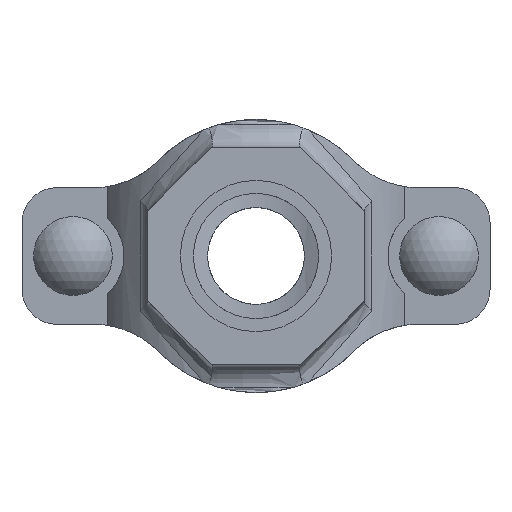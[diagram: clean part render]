
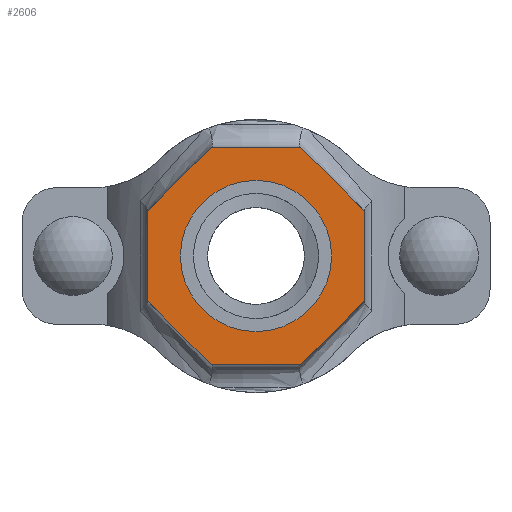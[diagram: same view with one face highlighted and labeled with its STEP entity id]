
A CAD part, front view. The second image highlights one B-rep face of the part: STEP entity #2606.
In plain terms, the highlighted planar face has unit normal (0, -1, 0) as drawn and (0, 1, 0) by its records, which use the part's own axes.
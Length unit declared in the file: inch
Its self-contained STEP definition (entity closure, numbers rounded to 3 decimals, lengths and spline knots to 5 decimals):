
#200=FACE_BOUND('',#476,.T.);
#322=FACE_OUTER_BOUND('',#475,.T.);
#475=EDGE_LOOP('',(#2183,#2184,#2185,#2186,#2187,#2188,#2189,#2190));
#476=EDGE_LOOP('',(#2191));
#615=LINE('',#4808,#801);
#618=LINE('',#4813,#804);
#620=LINE('',#4817,#806);
#622=LINE('',#4821,#808);
#656=LINE('',#5180,#842);
#658=LINE('',#5184,#844);
#660=LINE('',#5188,#846);
#662=LINE('',#5191,#848);
#801=VECTOR('',#3358,0.3937);
#804=VECTOR('',#3363,0.3937);
#806=VECTOR('',#3367,0.3937);
#808=VECTOR('',#3371,0.3937);
#842=VECTOR('',#3493,0.3937);
#844=VECTOR('',#3497,0.3937);
#846=VECTOR('',#3501,0.3937);
#848=VECTOR('',#3505,0.3937);
#934=CIRCLE('',#2870,0.83);
#1130=VERTEX_POINT('',#4805);
#1131=VERTEX_POINT('',#4807);
#1132=VERTEX_POINT('',#4811);
#1133=VERTEX_POINT('',#4815);
#1134=VERTEX_POINT('',#4819);
#1159=VERTEX_POINT('',#5013);
#1183=VERTEX_POINT('',#5179);
#1184=VERTEX_POINT('',#5183);
#1185=VERTEX_POINT('',#5187);
#1452=EDGE_CURVE('',#1131,#1130,#615,.T.);
#1455=EDGE_CURVE('',#1130,#1132,#618,.T.);
#1457=EDGE_CURVE('',#1132,#1133,#620,.T.);
#1459=EDGE_CURVE('',#1133,#1134,#622,.T.);
#1496=EDGE_CURVE('',#1159,#1159,#934,.T.);
#1528=EDGE_CURVE('',#1183,#1131,#656,.T.);
#1530=EDGE_CURVE('',#1184,#1183,#658,.T.);
#1532=EDGE_CURVE('',#1185,#1184,#660,.T.);
#1534=EDGE_CURVE('',#1134,#1185,#662,.T.);
#2183=ORIENTED_EDGE('',*,*,#1534,.T.);
#2184=ORIENTED_EDGE('',*,*,#1532,.T.);
#2185=ORIENTED_EDGE('',*,*,#1530,.T.);
#2186=ORIENTED_EDGE('',*,*,#1528,.T.);
#2187=ORIENTED_EDGE('',*,*,#1452,.T.);
#2188=ORIENTED_EDGE('',*,*,#1455,.T.);
#2189=ORIENTED_EDGE('',*,*,#1457,.T.);
#2190=ORIENTED_EDGE('',*,*,#1459,.T.);
#2191=ORIENTED_EDGE('',*,*,#1496,.T.);
#2341=PLANE('',#2893);
#2606=ADVANCED_FACE('',(#322,#200),#2341,.T.);
#2870=AXIS2_PLACEMENT_3D('',#5014,#3439,#3440);
#2893=AXIS2_PLACEMENT_3D('',#5192,#3506,#3507);
#3358=DIRECTION('',(0.,0.,1.));
#3363=DIRECTION('',(0.707,0.,0.707));
#3367=DIRECTION('',(1.,0.,0.));
#3371=DIRECTION('',(0.707,0.,-0.707));
#3439=DIRECTION('center_axis',(0.,-1.,0.));
#3440=DIRECTION('ref_axis',(-1.,0.,0.));
#3493=DIRECTION('',(-0.707,0.,0.707));
#3497=DIRECTION('',(-1.,0.,0.));
#3501=DIRECTION('',(-0.707,0.,-0.707));
#3505=DIRECTION('',(0.,0.,-1.));
#3506=DIRECTION('center_axis',(0.,1.,0.));
#3507=DIRECTION('ref_axis',(0.,0.,1.));
#4805=CARTESIAN_POINT('',(-1.19,3.,0.49291));
#4807=CARTESIAN_POINT('',(-1.19,3.,-0.49291));
#4808=CARTESIAN_POINT('',(-1.19,3.,0.49291));
#4811=CARTESIAN_POINT('',(-0.49291,3.,1.19));
#4813=CARTESIAN_POINT('',(-0.49291,3.,1.19));
#4815=CARTESIAN_POINT('',(0.49291,3.,1.19));
#4817=CARTESIAN_POINT('',(0.49291,3.,1.19));
#4819=CARTESIAN_POINT('',(1.19,3.,0.49291));
#4821=CARTESIAN_POINT('',(1.19,3.,0.49291));
#5013=CARTESIAN_POINT('',(0.83,3.,0.));
#5014=CARTESIAN_POINT('Origin',(0.,3.,0.));
#5179=CARTESIAN_POINT('',(-0.49291,3.,-1.19));
#5180=CARTESIAN_POINT('',(-1.19,3.,-0.49291));
#5183=CARTESIAN_POINT('',(0.49291,3.,-1.19));
#5184=CARTESIAN_POINT('',(-0.49291,3.,-1.19));
#5187=CARTESIAN_POINT('',(1.19,3.,-0.49291));
#5188=CARTESIAN_POINT('',(0.49291,3.,-1.19));
#5191=CARTESIAN_POINT('',(1.19,3.,-0.49291));
#5192=CARTESIAN_POINT('Origin',(0.,3.,0.));
